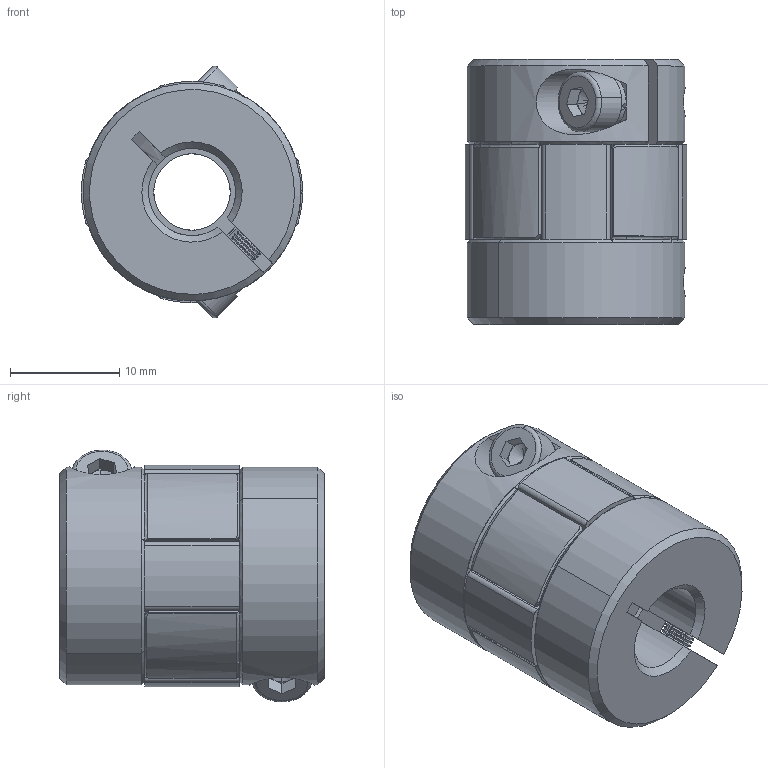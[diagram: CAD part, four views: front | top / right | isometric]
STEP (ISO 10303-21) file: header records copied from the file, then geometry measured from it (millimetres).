
FILE_DESCRIPTION (( 'STEP AP203' ), '1' );
FILE_NAME ('LF-B-D20L25-7-8.STEP', '2021-10-20T01:53:03', ( '' ), ( '' ), 'SwSTEP 2.0', 'SolidWorks 2018', '' );
FILE_SCHEMA (( 'CONFIG_CONTROL_DESIGN' ));
Length unit declared in the file: millimetre
Products named in the file (1): LF-B-D20L25-7-8
Bounding box: 20.31 x 24.3 x 23.09 mm (x, y, z)
Volume: 6361.1 mm3; surface area: 3572.1 mm2
Topology: 1 solids, 1 shells, 427 faces, 1065 edges, 631 vertices
Faces by surface type: cylinder 165, cone 158, plane 92, torus 12
Entity records: 13053 total; most frequent: CARTESIAN_POINT 2710, DIRECTION 2306, ORIENTED_EDGE 2122, EDGE_CURVE 1061, AXIS2_PLACEMENT_3D 949, VERTEX_POINT 631, CIRCLE 521, EDGE_LOOP 444
